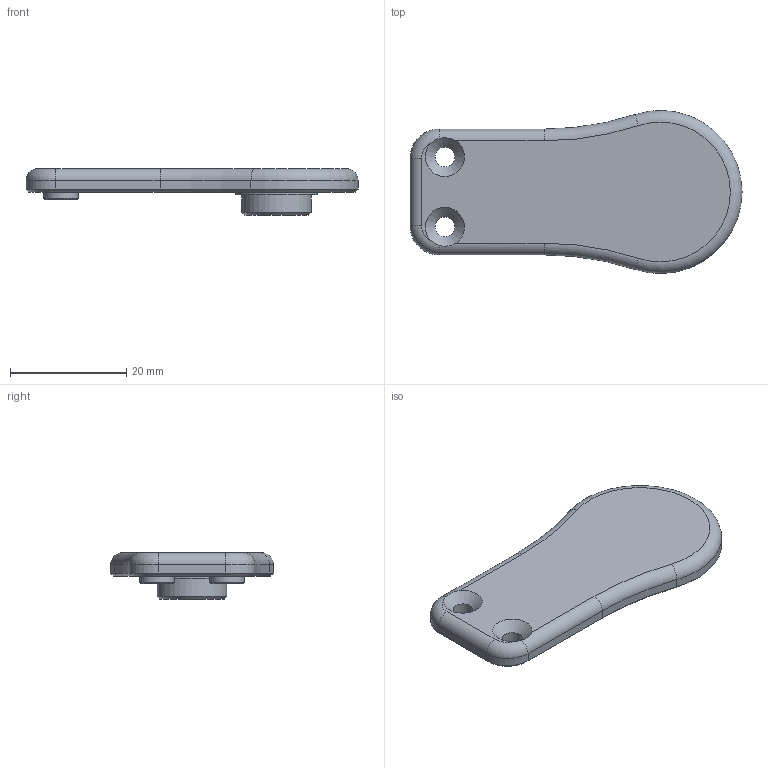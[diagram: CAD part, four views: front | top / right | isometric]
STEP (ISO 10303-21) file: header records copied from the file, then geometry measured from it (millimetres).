
FILE_DESCRIPTION (( 'STEP AP203' ), '1' );
FILE_NAME ('M-JXB2-137063-B.STEP', '2025-11-06T06:47:53', ( '' ), ( '' ), 'SwSTEP 2.0', 'SolidWorks 2019', '' );
FILE_SCHEMA (( 'CONFIG_CONTROL_DESIGN' ));
Length unit declared in the file: millimetre
Products named in the file (1): M-JXB2-137063-B
Bounding box: 57 x 27.99 x 8 mm (x, y, z)
Volume: 5373.5 mm3; surface area: 3225 mm2
Topology: 1 solids, 1 shells, 41 faces, 95 edges, 58 vertices
Faces by surface type: cylinder 14, plane 12, cone 10, torus 5
Full cylindrical faces by diameter (mm): 3.4 x2, 6 x2, 12 x1, 14 x1
Entity records: 1153 total; most frequent: DIRECTION 202, CARTESIAN_POINT 198, ORIENTED_EDGE 154, AXIS2_PLACEMENT_3D 87, EDGE_CURVE 77, EDGE_LOOP 58, VERTEX_POINT 51, FACE_OUTER_BOUND 47
